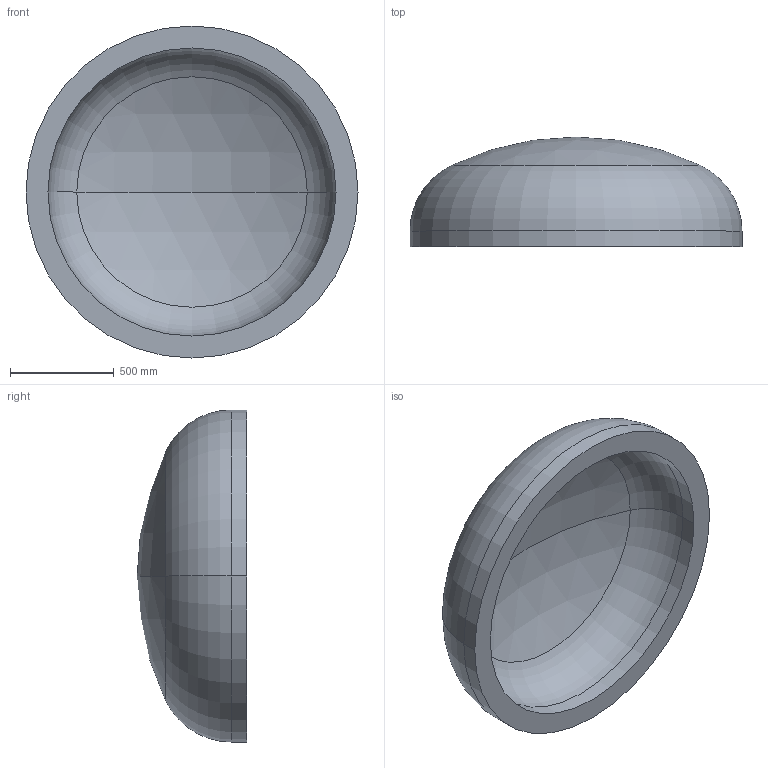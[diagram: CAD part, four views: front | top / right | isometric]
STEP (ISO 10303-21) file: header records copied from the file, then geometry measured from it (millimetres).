
FILE_DESCRIPTION (( 'STEP AP203' ), '1' );
FILE_NAME ('DIN 28013 Korbbogenform_-_Boden DIN 28013 - 1600 x 75 - I - s=106.step', '2016-07-01T11:30:52', ( '' ), ( '' ), 'SwSTEP 2.0', 'SolidWorks 2013', '' );
FILE_SCHEMA (( 'CONFIG_CONTROL_DESIGN' ));
Length unit declared in the file: millimetre
Products named in the file (1): DIN 28013 Korbbogenform_-_Boden DIN 28013 - 1600 x 75 - I - s=106
Bounding box: 1600 x 528.46 x 1600 mm (x, y, z)
Volume: 308378788.9 mm3; surface area: 6339514.1 mm2
Topology: 1 solids, 1 shells, 13 faces, 24 edges, 14 vertices
Faces by surface type: torus 4, cylinder 4, sphere 4, plane 1
Entity records: 407 total; most frequent: DIRECTION 72, CARTESIAN_POINT 52, ORIENTED_EDGE 48, AXIS2_PLACEMENT_3D 34, EDGE_CURVE 24, CIRCLE 20, EDGE_LOOP 14, VERTEX_POINT 14
